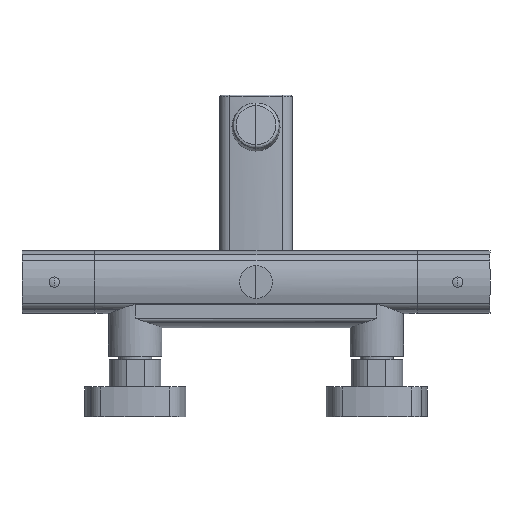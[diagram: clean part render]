
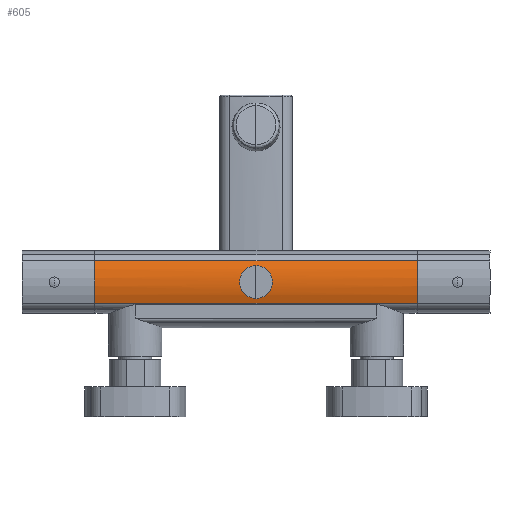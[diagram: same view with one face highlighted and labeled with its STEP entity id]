
A CAD part, front view. The second image highlights one B-rep face of the part: STEP entity #605.
In plain terms, the highlighted cylindrical face has radius 36 mm (diameter 72 mm), a partial arc.
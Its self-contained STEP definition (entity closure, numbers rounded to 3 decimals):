
#390 = VERTEX_POINT('',#391);
#391 = CARTESIAN_POINT('',(100.,-17.074,96.702));
#398 = EDGE_CURVE('',#390,#399,#401,.T.);
#399 = VERTEX_POINT('',#400);
#400 = CARTESIAN_POINT('',(100.,-17.074,70.498));
#401 = CIRCLE('',#402,36.);
#402 = AXIS2_PLACEMENT_3D('',#403,#404,#405);
#403 = CARTESIAN_POINT('',(100.,16.457,83.6));
#404 = DIRECTION('',(1.,0.,0.));
#405 = DIRECTION('',(0.,0.,-1.));
#535 = VERTEX_POINT('',#536);
#536 = CARTESIAN_POINT('',(-100.,-17.074,
    70.498));
#543 = EDGE_CURVE('',#535,#544,#546,.T.);
#544 = VERTEX_POINT('',#545);
#545 = CARTESIAN_POINT('',(-100.,-17.074,
    96.702));
#546 = CIRCLE('',#547,36.);
#547 = AXIS2_PLACEMENT_3D('',#548,#549,#550);
#548 = CARTESIAN_POINT('',(-100.,16.457,
    83.6));
#549 = DIRECTION('',(-1.,0.,0.));
#550 = DIRECTION('',(0.,0.,-1.));
#595 = EDGE_CURVE('',#544,#390,#596,.T.);
#596 = LINE('',#597,#598);
#597 = CARTESIAN_POINT('',(100.,-17.074,96.702));
#598 = VECTOR('',#599,1.);
#599 = DIRECTION('',(1.,0.,0.));
#605 = ADVANCED_FACE('',(#606,#617),#665,.T.);
#606 = FACE_BOUND('',#607,.T.);
#607 = EDGE_LOOP('',(#608,#609,#610,#611));
#608 = ORIENTED_EDGE('',*,*,#398,.F.);
#609 = ORIENTED_EDGE('',*,*,#595,.F.);
#610 = ORIENTED_EDGE('',*,*,#543,.F.);
#611 = ORIENTED_EDGE('',*,*,#612,.T.);
#612 = EDGE_CURVE('',#535,#399,#613,.T.);
#613 = LINE('',#614,#615);
#614 = CARTESIAN_POINT('',(100.,-17.074,70.498));
#615 = VECTOR('',#616,1.);
#616 = DIRECTION('',(1.,0.,0.));
#617 = FACE_BOUND('',#618,.T.);
#618 = EDGE_LOOP('',(#619,#644));
#619 = ORIENTED_EDGE('',*,*,#620,.T.);
#620 = EDGE_CURVE('',#621,#623,#625,.T.);
#621 = VERTEX_POINT('',#622);
#622 = CARTESIAN_POINT('',(0.,-18.597,
    75.4));
#623 = VERTEX_POINT('',#624);
#624 = CARTESIAN_POINT('',(0.,-18.597,
    91.8));
#625 = B_SPLINE_CURVE_WITH_KNOTS('',3,(#626,#627,#628,#629,#630,#631,
    #632,#633,#634,#635,#636,#637,#638,#639,#640,#641,#642,#643),
  .UNSPECIFIED.,.F.,.F.,(4,2,2,2,2,2,2,2,4),(-4.961,
    -4.651,-4.341,-4.031,-3.721,
    -3.411,-3.101,-2.791,-2.48),
  .UNSPECIFIED.);
#626 = CARTESIAN_POINT('',(0.,-18.597,
    75.4));
#627 = CARTESIAN_POINT('',(-1.034,-18.597,
    75.4));
#628 = CARTESIAN_POINT('',(-2.133,-18.647,
    75.607));
#629 = CARTESIAN_POINT('',(-4.153,-18.827,
    76.445));
#630 = CARTESIAN_POINT('',(-5.072,-18.954,
    77.076));
#631 = CARTESIAN_POINT('',(-6.524,-19.191,
    78.528));
#632 = CARTESIAN_POINT('',(-7.155,-19.317,
    79.447));
#633 = CARTESIAN_POINT('',(-7.993,-19.494,
    81.467));
#634 = CARTESIAN_POINT('',(-8.2,-19.543,
    82.567));
#635 = CARTESIAN_POINT('',(-8.2,-19.543,
    84.633));
#636 = CARTESIAN_POINT('',(-7.993,-19.494,
    85.733));
#637 = CARTESIAN_POINT('',(-7.155,-19.317,
    87.753));
#638 = CARTESIAN_POINT('',(-6.524,-19.191,
    88.672));
#639 = CARTESIAN_POINT('',(-5.072,-18.954,
    90.124));
#640 = CARTESIAN_POINT('',(-4.153,-18.827,
    90.755));
#641 = CARTESIAN_POINT('',(-2.133,-18.647,
    91.593));
#642 = CARTESIAN_POINT('',(-1.034,-18.597,
    91.8));
#643 = CARTESIAN_POINT('',(0.,-18.597,
    91.8));
#644 = ORIENTED_EDGE('',*,*,#645,.T.);
#645 = EDGE_CURVE('',#623,#621,#646,.T.);
#646 = B_SPLINE_CURVE_WITH_KNOTS('',3,(#647,#648,#649,#650,#651,#652,
    #653,#654,#655,#656,#657,#658,#659,#660,#661,#662,#663,#664),
  .UNSPECIFIED.,.F.,.F.,(4,2,2,2,2,2,2,2,4),(-2.48,
    -2.17,-1.86,-1.55,-1.24,
    -0.93,-0.62,-0.31,0.),
  .UNSPECIFIED.);
#647 = CARTESIAN_POINT('',(0.,-18.597,
    91.8));
#648 = CARTESIAN_POINT('',(1.034,-18.597,
    91.8));
#649 = CARTESIAN_POINT('',(2.133,-18.647,
    91.593));
#650 = CARTESIAN_POINT('',(4.153,-18.827,
    90.755));
#651 = CARTESIAN_POINT('',(5.072,-18.954,
    90.124));
#652 = CARTESIAN_POINT('',(6.524,-19.191,
    88.672));
#653 = CARTESIAN_POINT('',(7.155,-19.317,87.753
    ));
#654 = CARTESIAN_POINT('',(7.993,-19.494,
    85.733));
#655 = CARTESIAN_POINT('',(8.2,-19.543,
    84.633));
#656 = CARTESIAN_POINT('',(8.2,-19.543,
    82.567));
#657 = CARTESIAN_POINT('',(7.993,-19.494,81.467
    ));
#658 = CARTESIAN_POINT('',(7.155,-19.317,
    79.447));
#659 = CARTESIAN_POINT('',(6.524,-19.191,
    78.528));
#660 = CARTESIAN_POINT('',(5.072,-18.954,
    77.076));
#661 = CARTESIAN_POINT('',(4.153,-18.827,76.445
    ));
#662 = CARTESIAN_POINT('',(2.133,-18.647,
    75.607));
#663 = CARTESIAN_POINT('',(1.034,-18.597,
    75.4));
#664 = CARTESIAN_POINT('',(0.,-18.597,
    75.4));
#665 = CYLINDRICAL_SURFACE('',#666,36.);
#666 = AXIS2_PLACEMENT_3D('',#667,#668,#669);
#667 = CARTESIAN_POINT('',(-100.,16.457,
    83.6));
#668 = DIRECTION('',(1.,0.,0.));
#669 = DIRECTION('',(0.,0.,-1.));
